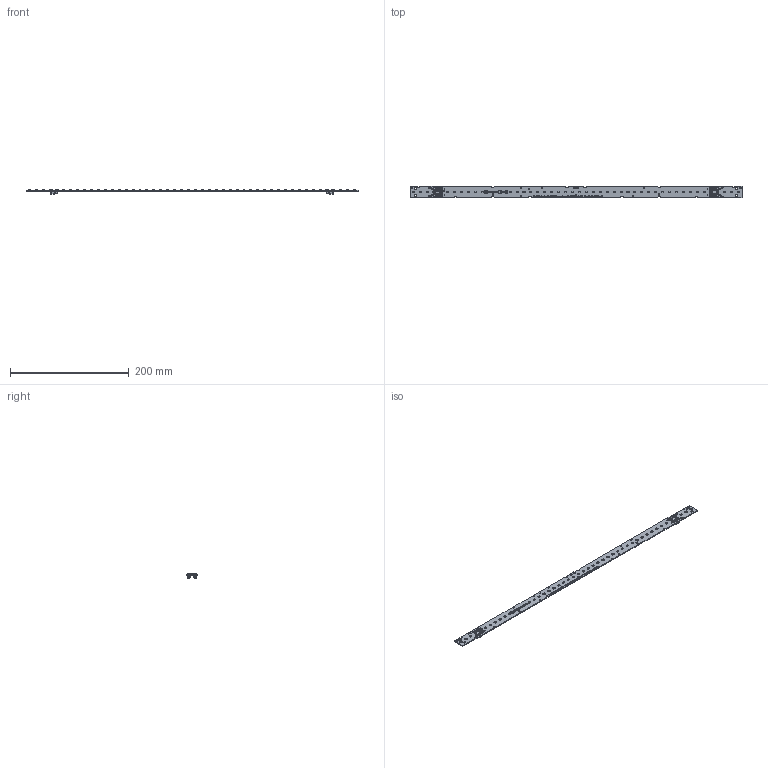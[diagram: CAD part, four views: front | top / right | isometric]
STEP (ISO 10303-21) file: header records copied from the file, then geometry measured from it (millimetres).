
FILE_DESCRIPTION(('Creo Elements/Direct Modeling STEP Export'),'2;1');
FILE_NAME('3D-Model__MLC SC W2_560 B_48_yzz_yzz G1.stp','2026-07-07T14:22:19',(''),(''),'PTC Creo Elements/Direct Modeling STEP processor for AP214 (Solid Model)','PTC Creo Elements/Direct Modeling 19.0E 27-Jun-2016 (C) Parametric Technology GmbH','');
FILE_SCHEMA(('AUTOMOTIVE_DESIGN { 1 0 10303 214 1 1 1 1 }'));
Length unit declared in the file: millimetre
Products named in the file (319): Print.76; Print.75; Print.77; Print.74; Print.84; Print.83; Print.80; Print.78; Print.82; Print.81; Print.79; Print.100; Print.98; Print.113; Print.99; Print.105; Print.117; Print.115; Print.107; Print.114; Print.109; Print.103; Print.112; Print.111; Print.104; Print.106; Print.96; Print.108; Print.97; Print.118; Print.116; Print.101; Print.102; Print.110; Print.22; Print.21; Print.27; Print.30; Print.28; Print.31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
Assembly tree (281 placements, depth 5):
  Print_Assembly
    Print.49
    Print.42
    Print.45
    Print.51
    Print.47
    Print.48
    Print.46
    Print.41
    Print.44
    Print.50
    Print.43
    Print.92
    Print.87
    Print.89
    Print.94
    Print.85
    Print.93
    Print.91
    Print.86
    Print.88
    Print.95
    Print.90
    Print.36
    Print.34
    Print.37
    Print.32
    Print.33
    Print.35
    Print.39
    Print.40
    Print.38
    Print.19
    Print.6
    Print.15
    Print.20
    Print.7
    Print.10
    Print.9
    Print.8
    Print.4
    Print.11
    Print
    Print.1
    Print.18
    Print.16
    Print.17
    Print.13
    Print.5
    Print.2
    Print.14
    Print.3
    Print.12
    Print.59
    Print.55
    Print.58
    Print.54
    Print.53
    Print.62
    Print.57
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Bounding box: 559 x 20 x 7.4 mm (x, y, z)
Volume: 17829.1 mm3; surface area: 28117.2 mm2
Topology: 139 solids, 379 shells, 10457 faces, 28321 edges, 18438 vertices
Faces by surface type: plane 8371, cylinder 2062, cone 16, bspline 8
Entity records: 312009 total; most frequent: CARTESIAN_POINT 43800, ORIENTED_EDGE 42710, DIRECTION 39563, EDGE_CURVE 21235, VECTOR 17501, LINE 17501, VERTEX_POINT 13872, AXIS2_PLACEMENT_3D 11031
